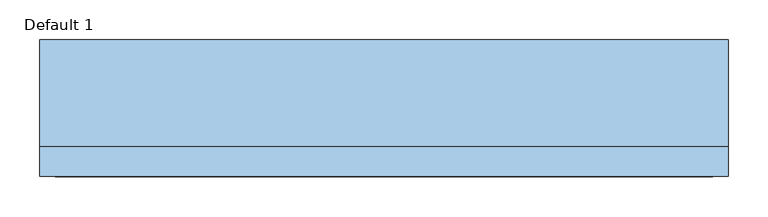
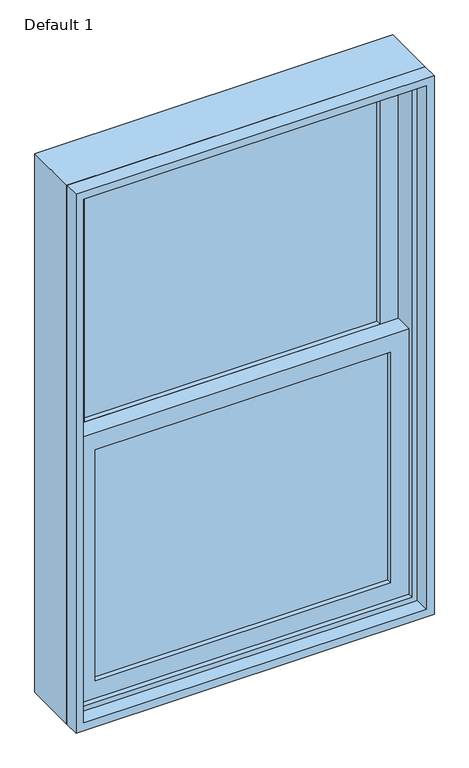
"""IFC4 building model written with IfcOpenShell, lengths in millimetres: window geometry, Planitar-Double-Hung-Single : Default 1."""

from ifc_helpers import new_model, si_unit, frame, origin, place, context, project, spatial, polyline, outline, extrude, source, transform, mapped, element, save


def default_1_2afedee8(model_context):
    return source(origin(), model_context, "Body", "SweptSolid", [
        extrude(outline(polyline([(355.6, 6.35), (355.6, 0.0), (-355.6, 0.0), (-355.6, 6.35), (355.6, 6.35)])), frame((0.0, 0.0, 990.6), z_axis=(0.0, 0.0, 1.0), x_axis=(1.0, 0.0, 0.0)), (0.0, 0.0, 1.0), 587.375),
        extrude(outline(polyline([(-355.6, -6.35), (355.6, -6.35), (355.6, -12.7), (-355.6, -12.7), (-355.6, -6.35)])), frame((0.0, 0.0, 990.6), z_axis=(0.0, 0.0, 1.0), x_axis=(1.0, 0.0, 0.0)), (0.0, 0.0, 1.0), 587.375),
        extrude(outline(polyline([(355.6, 50.8), (355.6, 44.45), (-355.6, 44.45), (-355.6, 50.8), (355.6, 50.8)])), frame((0.0, 0.0, 1622.425), z_axis=(0.0, 0.0, 1.0), x_axis=(1.0, 0.0, 0.0)), (0.0, 0.0, 1.0), 587.375),
        extrude(outline(polyline([(-355.6, 38.1), (355.6, 38.1), (355.6, 31.75), (-355.6, 31.75), (-355.6, 38.1)])), frame((0.0, 0.0, 1622.425), z_axis=(0.0, 0.0, 1.0), x_axis=(1.0, 0.0, 0.0)), (0.0, 0.0, 1.0), 587.375),
        extrude(outline(polyline([(1622.425, -400.05), (946.15, -400.05), (946.15, 400.05), (1622.425, 400.05), (1622.425, -400.05)]), holes=[polyline([(1577.975, 355.6), (990.6, 355.6), (990.6, -355.6), (1577.975, -355.6), (1577.975, 355.6)])]), frame((0.0, -25.4, 0.0), z_axis=(0.0, 1.0, 0.0), x_axis=(0.0, 0.0, 1.0)), (0.0, 0.0, 1.0), 44.45),
        extrude(outline(polyline([(2254.25, -400.05), (1577.975, -400.05), (1577.975, 400.05), (2254.25, 400.05), (2254.25, -400.05)]), holes=[polyline([(2209.8, 355.6), (1622.425, 355.6), (1622.425, -355.6), (2209.8, -355.6), (2209.8, 355.6)])]), frame((0.0, 19.05, 0.0), z_axis=(0.0, 1.0, 0.0), x_axis=(0.0, 0.0, 1.0)), (0.0, 0.0, 1.0), 44.45),
        extrude(outline(polyline([(2286.0, -431.8), (914.4, -431.8), (914.4, 431.8), (2286.0, 431.8), (2286.0, -431.8)]), holes=[polyline([(2254.25, 400.05), (946.15, 400.05), (946.15, -400.05), (2254.25, -400.05), (2254.25, 400.05)])]), frame((0.0, -38.1, 0.0), z_axis=(0.0, 1.0, 0.0), x_axis=(0.0, 0.0, 1.0)), (0.0, 0.0, 1.0), 133.35),
        extrude(outline(polyline([(2286.0, 431.8), (2286.0, -431.8), (914.4, -431.8), (914.4, 431.8), (2286.0, 431.8)]), holes=[polyline([(2266.95, 412.75), (933.45, 412.75), (933.45, -412.75), (2266.95, -412.75), (2266.95, 412.75)])]), frame((0.0, -76.2, 0.0), z_axis=(0.0, 1.0, 0.0), x_axis=(0.0, 0.0, 1.0)), (0.0, 0.0, 1.0), 38.1),
    ])


if __name__ == "__main__":
    model = new_model("IFC4")
    model_context = context("Model", 3, world=origin())
    ifc_project = project(units=[si_unit("LENGTHUNIT", "METRE", prefix="MILLI")], contexts=[model_context])
    site = spatial("IfcSite", under=ifc_project)
    building = spatial("IfcBuilding", under=site)
    placement = place(None, origin())
    default_1_shape = default_1_2afedee8(model_context)
    element("IfcWindow", 1, ObjectType="Planitar-Double-Hung-Single : Default 1", at=placement, inside=building, context=model_context, shape_type="MappedRepresentation", body=[
        mapped(default_1_shape, transform((0.0, 0.0, 0.0), x_axis=(1.0, 0.0, 0.0), y_axis=(0.0, 1.0, 0.0), z_axis=(0.0, 0.0, 1.0))),
    ])
    save(model, "model.ifc")
